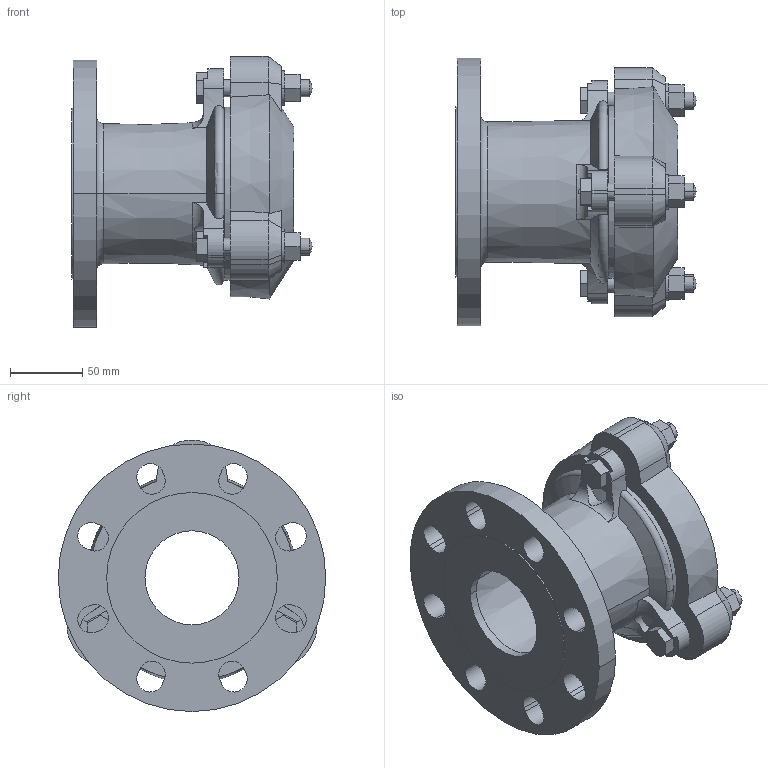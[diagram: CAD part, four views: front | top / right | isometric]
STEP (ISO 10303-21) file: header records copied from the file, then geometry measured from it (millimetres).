
FILE_DESCRIPTION((''),'2;1');
FILE_NAME('BIM_13199_4_ASM','2020-09-09T',('MReader'),(''),'CREO PARAMETRIC BY PTC INC, 2016130','CREO PARAMETRIC BY PTC INC, 2016130','');
FILE_SCHEMA(('CONFIG_CONTROL_DESIGN'));
Length unit declared in the file: millimetre
Products named in the file (3): BIM_12197_2; BIM_13230_4; BIM_13199_4_ASM
Assembly tree (2 placements, depth 2):
  BIM_13199_4_ASM
    BIM_12197_2
    BIM_13230_4
Bounding box: 166 x 185 x 187.47 mm (x, y, z)
Volume: 1110075.7 mm3; surface area: 200116.1 mm2
Topology: 2 solids, 2 shells, 226 faces, 588 edges, 375 vertices
Faces by surface type: plane 119, cylinder 65, cone 29, torus 7, sphere 6
Entity records: 7282 total; most frequent: CARTESIAN_POINT 1573, DIRECTION 1190, ORIENTED_EDGE 1164, EDGE_CURVE 582, AXIS2_PLACEMENT_3D 428, VERTEX_POINT 375, VECTOR 334, LINE 334
